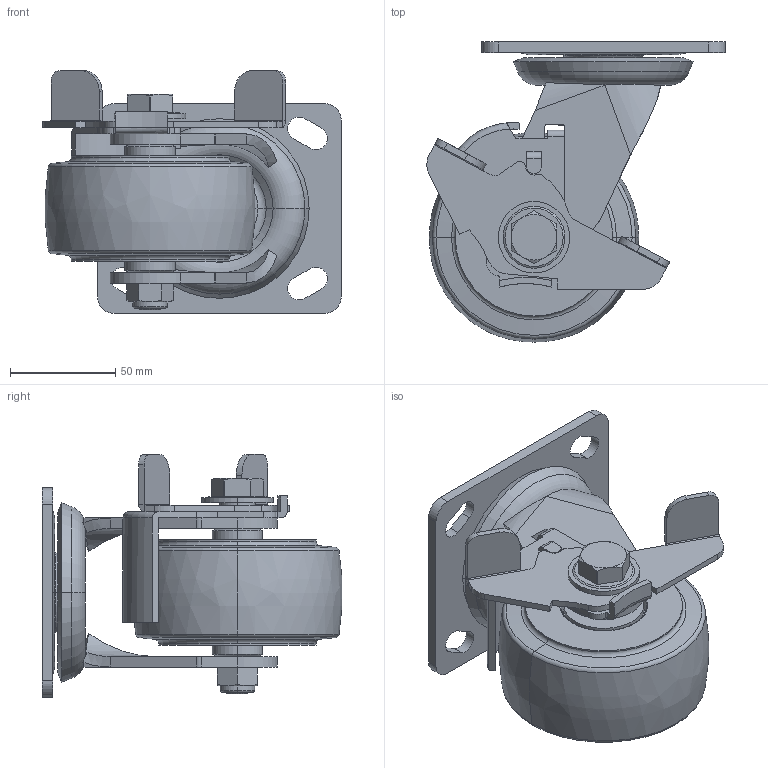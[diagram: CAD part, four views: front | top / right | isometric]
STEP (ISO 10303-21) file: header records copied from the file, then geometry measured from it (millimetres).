
FILE_DESCRIPTION((''),'2;1');
FILE_NAME('S75724C_ASM','2026-07-31T',('Lenovo'),(''),'PRO/ENGINEER BY PARAMETRIC TECHNOLOGY CORPORATION, 2010280','PRO/ENGINEER BY PARAMETRIC TECHNOLOGY CORPORATION, 2010280','');
FILE_SCHEMA(('CONFIG_CONTROL_DESIGN'));
Length unit declared in the file: millimetre
Products named in the file (14): S7504-353; S7570-201; S7500-211; 734-986; 6203; 700-67; 700-54; 734-86_ASM; 7310-020C; 700-34; C7414-503; C7414-502; S7570-047; S75724C_ASM
Assembly tree (15 placements, depth 3):
  S75724C_ASM
    S7504-353
    S7570-201
    S7500-211
    734-86_ASM
      734-986
      6203  x2
      700-67  x2
      700-54
    7310-020C
    700-34
    C7414-503
    C7414-502
    S7570-047
Bounding box: 142.04 x 142.83 x 115.71 mm (x, y, z)
Volume: 512087.8 mm3; surface area: 148826.7 mm2
Topology: 41 solids, 41 shells, 594 faces, 1450 edges, 870 vertices
Faces by surface type: plane 264, cylinder 152, torus 66, cone 54, sphere 48, bspline 10
Entity records: 16053 total; most frequent: CARTESIAN_POINT 3233, DIRECTION 2750, ORIENTED_EDGE 2492, EDGE_CURVE 1246, AXIS2_PLACEMENT_3D 1001, VERTEX_POINT 796, VECTOR 748, LINE 748
